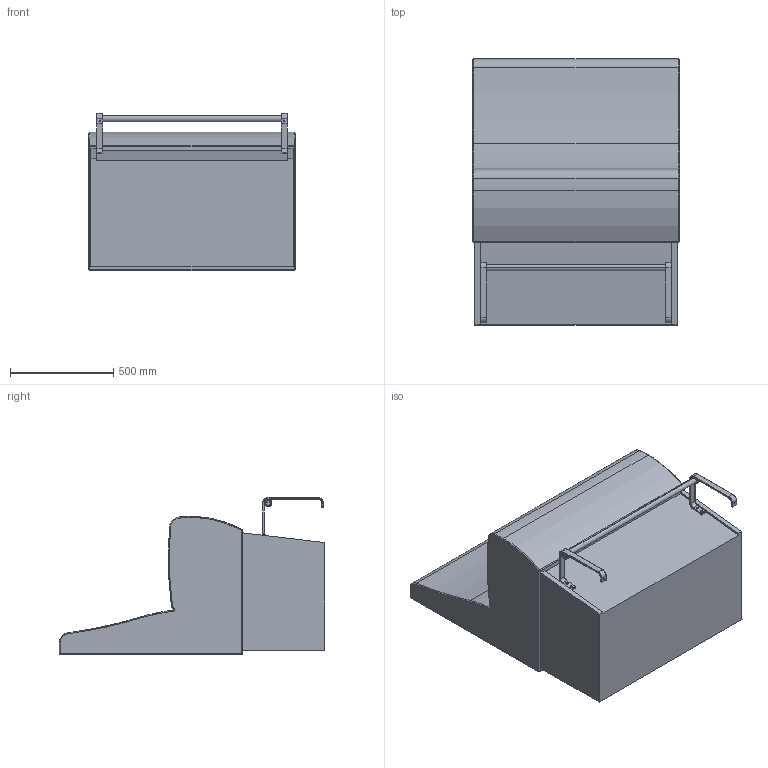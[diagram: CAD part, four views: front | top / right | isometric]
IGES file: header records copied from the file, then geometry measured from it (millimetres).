
Start section: SolidWorks IGES file using analytic representation for surfaces
Global section: file name: C:\Users\mateus\Documents\TRABALHO\DESENHO TÉCNICO\JMS\BANCOS CORRIDOS\JAZZ_ROCK\100 Bar\100Bar_B4.IGS; native system: SolidWorks 2017; preprocessor: SolidWorks 2017; author: Mateus; date: 170619.105501; units: millimetre
Bounding box: 1000 x 1290.05 x 761.47 mm (x, y, z)
Surface area: 7289195.2 mm2 (no closed solid volume)
Topology: 0 solids, 0 shells, 382 faces, 4040 edges, 4019 vertices
Faces by surface type: revolution 234, bspline 148
